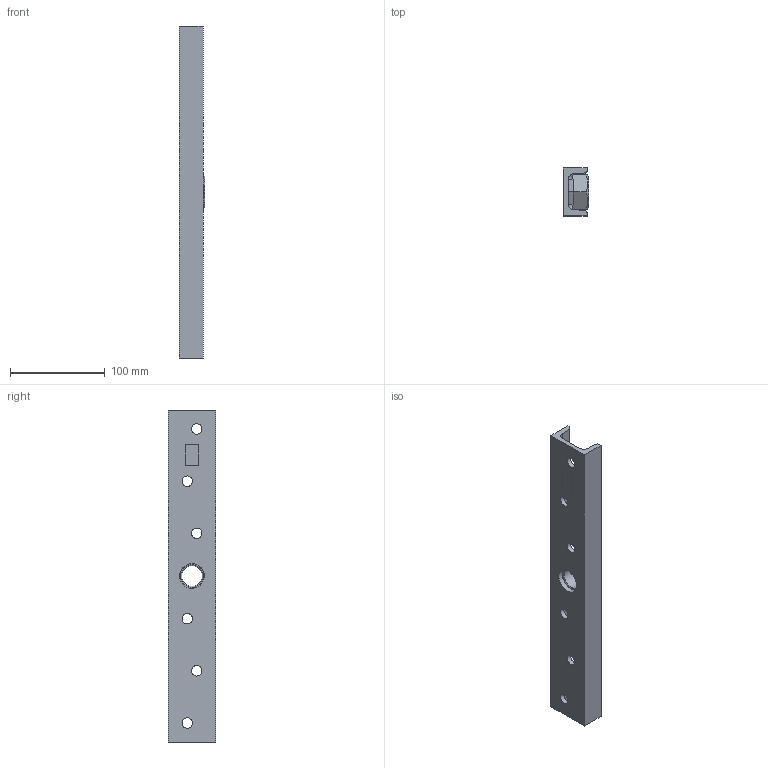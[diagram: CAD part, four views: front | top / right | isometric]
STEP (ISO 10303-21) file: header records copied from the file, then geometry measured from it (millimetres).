
FILE_DESCRIPTION(/* description */ ('Traegerplatte Nr.4'),/* implementation_level */ '2;1');
FILE_NAME(/* name */ 'Q:\sge-ma\Produktmanagement-STB\STB\Workspace\stp\010336655.stp',/* time_stamp */ '2016-07-19T08:49:11+02:00',/* author */ ('avschreier'),/* organization */ (''),/* preprocessor_version */ 'ST-DEVELOPER v16.1',/* originating_system */ 'Autodesk Inventor 2016',/* authorisation */ '');
FILE_SCHEMA (('AUTOMOTIVE_DESIGN { 1 0 10303 214 3 1 1 }'));
Length unit declared in the file: millimetre
Products named in the file (4): 010336655_Schweißnähte; 337000130; 337000221; 010336655
Assembly tree (3 placements, depth 2):
  010336655
    010336655_Schweißnähte
    337000130
    337000221
Bounding box: 26.5 x 50 x 350 mm (x, y, z)
Volume: 182917.8 mm3; surface area: 70444.2 mm2
Topology: 4 solids, 4 shells, 70 faces, 183 edges, 120 vertices
Faces by surface type: plane 43, cylinder 16, cone 7, bspline 4
Full cylindrical faces by diameter (mm): 11 x6, 21.835 x1, 26 x1
Entity records: 2233 total; most frequent: CARTESIAN_POINT 511, DIRECTION 332, ORIENTED_EDGE 326, EDGE_CURVE 163, AXIS2_PLACEMENT_3D 120, VERTEX_POINT 111, EDGE_LOOP 96, LINE 92
